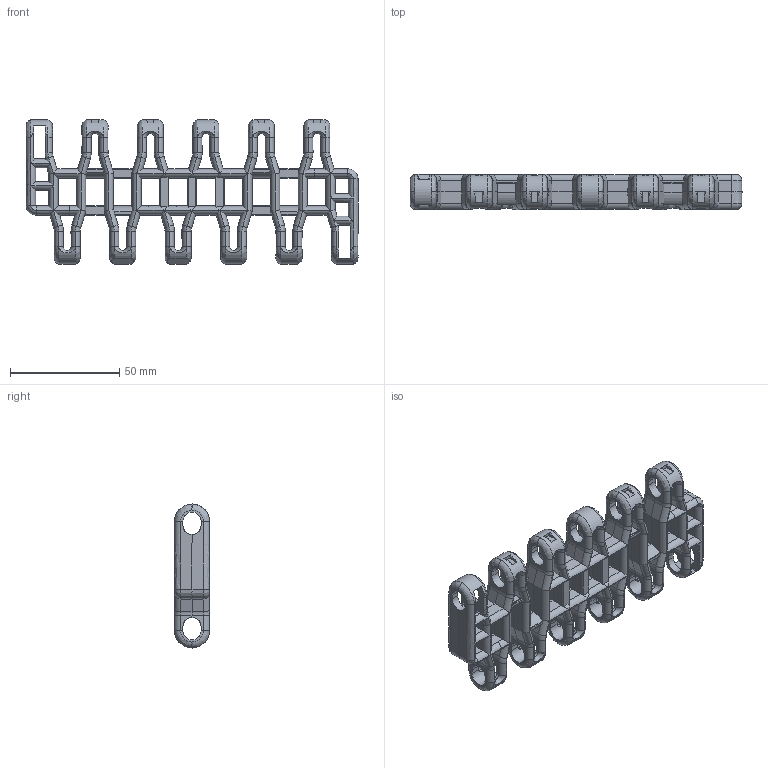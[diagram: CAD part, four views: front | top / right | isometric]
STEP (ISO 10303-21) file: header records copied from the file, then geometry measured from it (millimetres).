
FILE_DESCRIPTION((''),'2;1');
FILE_NAME('P067','2016-05-25T',('jas'),(''),'CREO PARAMETRIC BY PTC INC, 2016050','CREO PARAMETRIC BY PTC INC, 2016050','');
FILE_SCHEMA(('AUTOMOTIVE_DESIGN { 1 0 10303 214 1 1 1 1 }'));
Products named in the file (1): P067
Bounding box: 152.08 x 16 x 66 mm (x, y, z)
Volume: 52071 mm3; surface area: 32657.5 mm2
Topology: 1 solids, 1 shells, 1307 faces, 3059 edges, 1662 vertices
Faces by surface type: plane 437, cylinder 332, bspline 240, cone 108, torus 108, extrusion 74, revolution 8
Entity records: 54022 total; most frequent: CARTESIAN_POINT 26133, ORIENTED_EDGE 6118, DIRECTION 4981, EDGE_CURVE 3059, AXIS2_PLACEMENT_3D 1671, VERTEX_POINT 1662, VECTOR 1631, LINE 1557
